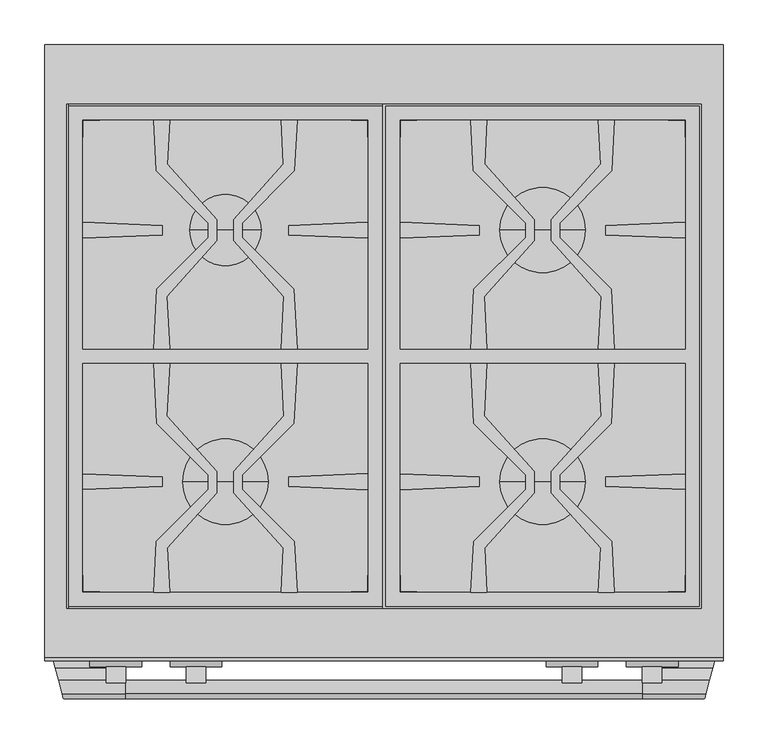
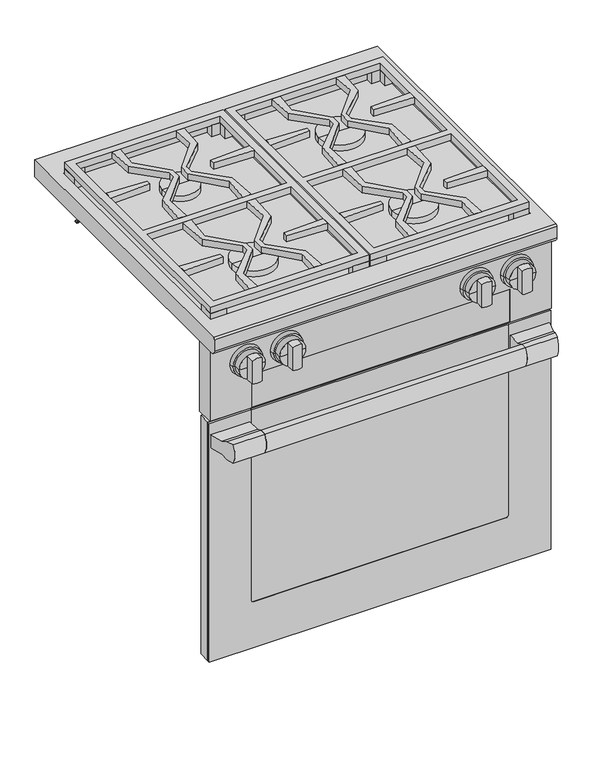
"""IFC4 building model written with IfcOpenShell, lengths in millimetres: proxy geometry, 10902360_USA_HR1924-2G_EDST-CLST : 25192471_USA_10902360_HR1924-2G_EDST-CLST."""

from ifc_helpers import new_model, si_unit, point, frame, frame_2d, origin, place, context, project, spatial, polyline, circle_curve, ellipse_curve, trimmed, segment, composite_curve, outline, extrude, faceted_brep, source, transform, mapped, element, save
from ifc_brep_helpers import plane_surface, cylinder_surface, revolved_surface, advanced_brep


def specialty_equipment_f78d7c6f(model_context):
    return source(origin(), model_context, "Body", "SolidModel", [
        extrude(outline(composite_curve([segment(polyline([(-729.0, 667.0), (-714.0, 667.0), (-714.0, 624.0), (-729.0, 624.0)]), True, "CONTINUOUS"), segment(trimmed(circle_curve(frame_2d((-693.4791667, 645.5)), 41.5208333), [point((-729.0, 624.0))], [point((-729.0, 667.0))], False, "CARTESIAN"), True, "CONTINUOUS")], self_intersect=False)), frame((-290.0, 0.0, 0.0), z_axis=(1.0, 0.0, 0.0), x_axis=(0.0, 1.0, 0.0)), (0.0, 0.0, 1.0), 580.0),
        extrude(outline(polyline([(-380.0, -638.0), (380.0, -638.0), (380.0, -664.7), (-380.0, -664.7), (-380.0, -638.0)])), frame((0.0, 0.0, 127.0), z_axis=(0.0, 0.0, 1.0), x_axis=(1.0, 0.0, 0.0)), (0.0, 0.0, 1.0), 561.0),
        extrude(outline(polyline([(-379.0, -664.7), (379.0, -664.7), (379.0, -668.7), (-379.0, -668.7), (-379.0, -664.7)])), frame((0.0, 0.0, 128.0), z_axis=(0.0, 0.0, 1.0), x_axis=(1.0, 0.0, 0.0)), (0.0, 0.0, 1.0), 559.0),
        advanced_brep(
        [(287.0, -664.7, 688.0), (380.0, -664.7, 688.0), (380.0, -664.7, 127.0), (-380.0, -664.7, 127.0), (-380.0, -664.7, 688.0), (-287.0, -664.7, 688.0), (-287.0, -664.7, 687.0), (-379.0, -664.7, 687.0), (-379.0, -664.7, 128.0), (379.0, -664.7, 128.0), (379.0, -664.7, 687.0), (287.0, -664.7, 687.0), (-287.0, -670.0, 688.0), (-380.0, -670.0, 688.0), (-380.0, -670.0, 127.0), (380.0, -670.0, 127.0), (380.0, -670.0, 688.0), (287.0, -670.0, 688.0), (287.0, -670.0, 241.0), (281.0, -670.0, 235.0), (-281.0, -670.0, 235.0), (-287.0, -670.0, 241.0), (-287.0, -668.7, 241.0), (-287.0, -668.7, 687.0), (281.0, -668.7, 235.0), (-281.0, -668.7, 235.0), (287.0, -668.7, 687.0), (287.0, -668.7, 241.0), (379.0, -668.7, 687.0), (379.0, -668.7, 128.0), (-379.0, -668.7, 128.0), (-379.0, -668.7, 687.0)],
        [
            (0, 1),
            (1, 2),
            (2, 3),
            (3, 4),
            (4, 5),
            (5, 6),
            (6, 7),
            (7, 8),
            (8, 9),
            (9, 10),
            (10, 11),
            (11, 0),
            (12, 13),
            (13, 14),
            (14, 15),
            (15, 16),
            (16, 17),
            (17, 18),
            (18, 19, circle_curve(frame((281.0, -670.0, 241.0), z_axis=(0.0, 1.0, 0.0), x_axis=(-1.0, 0.0, 0.0)), 6.0)),
            (19, 20),
            (20, 21, circle_curve(frame((-281.0, -670.0, 241.0), z_axis=(0.0, 1.0, 0.0), x_axis=(-1.0, 0.0, 0.0)), 6.0)),
            (21, 12),
            (21, 22),
            (22, 23),
            (23, 6),
            (5, 12),
            (19, 24),
            (24, 25),
            (25, 20),
            (17, 0),
            (11, 26),
            (26, 27),
            (27, 18),
            (16, 1),
            (15, 2),
            (14, 3),
            (13, 4),
            (25, 22, circle_curve(frame((-281.0, -668.7, 241.0), z_axis=(0.0, 1.0, 0.0), x_axis=(-1.0, 0.0, 0.0)), 6.0)),
            (27, 24, circle_curve(frame((281.0, -668.7, 241.0), z_axis=(0.0, 1.0, 0.0), x_axis=(-1.0, 0.0, 0.0)), 6.0)),
            (28, 29),
            (29, 30),
            (30, 31),
            (31, 23),
            (26, 28),
            (28, 10),
            (9, 29),
            (8, 30),
            (7, 31),
        ],
        [
            plane_surface(frame((-287.0, -664.7, 241.0), z_axis=(0.0, 1.0, 0.0), x_axis=(0.0, 0.0, -1.0))),
            plane_surface(frame((-287.0, -670.0, 241.0), z_axis=(0.0, -1.0, 0.0), x_axis=(0.0, 0.0, 1.0))),
            plane_surface(frame((-287.0, -664.7, 688.0), z_axis=(1.0, 0.0, 0.0), x_axis=(0.0, -1.0, 0.0))),
            plane_surface(frame((-281.0, -664.7, 235.0), z_axis=(0.0, 0.0, 1.0), x_axis=(0.0, -1.0, 0.0))),
            plane_surface(frame((287.0, -664.7, 241.0), z_axis=(-1.0, 0.0, 0.0), x_axis=(0.0, -1.0, 0.0))),
            plane_surface(frame((287.0, -664.7, 688.0), z_axis=(0.0, 0.0, 1.0), x_axis=(0.0, -1.0, 0.0))),
            plane_surface(frame((380.0, -664.7, 688.0), z_axis=(1.0, 0.0, 0.0), x_axis=(0.0, -1.0, 0.0))),
            plane_surface(frame((380.0, -664.7, 127.0), z_axis=(0.0, 0.0, -1.0), x_axis=(0.0, -1.0, 0.0))),
            plane_surface(frame((-380.0, -664.7, 127.0), z_axis=(-1.0, 0.0, 0.0), x_axis=(0.0, -1.0, 0.0))),
            plane_surface(frame((-380.0, -664.7, 688.0), z_axis=(0.0, 0.0, 1.0), x_axis=(0.0, -1.0, 0.0))),
            revolved_surface(polyline([(-287.0, -670.0, 241.0), (-287.0, -668.7, 241.0)]), (-281.0, -670.0, 241.0), (0.0, -1.0, 0.0)),
            revolved_surface(polyline([(275.0, -670.0, 241.0), (275.0, -668.7, 241.0)]), (281.0, -670.0, 241.0), (0.0, -1.0, 0.0)),
            plane_surface(frame((379.0, -668.7, 687.0), z_axis=(0.0, 1.0, 0.0), x_axis=(0.0, 0.0, 1.0))),
            plane_surface(frame((379.0, -664.7, 687.0), z_axis=(-1.0, 0.0, 0.0), x_axis=(0.0, -1.0, 0.0))),
            plane_surface(frame((379.0, -664.7, 128.0), z_axis=(0.0, 0.0, 1.0), x_axis=(0.0, -1.0, 0.0))),
            plane_surface(frame((-379.0, -664.7, 128.0), z_axis=(1.0, 0.0, 0.0), x_axis=(0.0, -1.0, 0.0))),
            plane_surface(frame((-379.0, -664.7, 687.0), z_axis=(0.0, 0.0, -1.0), x_axis=(0.0, -1.0, 0.0))),
        ],
        [
            (0, [[1, 2, 3, 4, 5, 6, 7, 8, 9, 10, 11, 12]]),
            (1, [[13, 14, 15, 16, 17, 18, 19, 20, 21, 22]]),
            (2, [[-22, 23, 24, 25, -6, 26]]),
            (3, [[-20, 27, 28, 29]]),
            (4, [[-18, 30, -12, 31, 32, 33]]),
            (5, [[-1, -30, -17, 34]]),
            (6, [[-2, -34, -16, 35]]),
            (7, [[-3, -35, -15, 36]]),
            (8, [[-4, -36, -14, 37]]),
            (9, [[-5, -37, -13, -26]]),
            (10, [[-21, -29, 38, -23]]),
            (11, [[-19, -33, 39, -27]]),
            (12, [[40, 41, 42, 43, -24, -38, -28, -39, -32, 44]]),
            (13, [[-40, 45, -10, 46]]),
            (14, [[-41, -46, -9, 47]]),
            (15, [[-42, -47, -8, 48]]),
            (16, [[-45, -44, -31, -11]]),
            (16, [[-48, -7, -25, -43]]),
        ],
    ),
        extrude(outline(polyline([(-351.0, -617.0), (351.0, -617.0), (351.0, -638.0), (-351.0, -638.0), (-351.0, -617.0)])), frame((0.0, 0.0, 133.0), z_axis=(0.0, 0.0, 1.0), x_axis=(1.0, 0.0, 0.0)), (0.0, 0.0, 1.0), 550.0),
        advanced_brep(
        [(-290.0, -700.0, 630.0), (-290.0, -670.0, 630.0), (-290.0, -670.0, 661.0), (-290.0, -700.0, 661.0), (-290.0, -714.0, 667.0), (-290.0, -729.0, 667.0), (-290.0, -729.0, 624.0), (-290.0, -714.0, 624.0), (-368.9615242, -700.0, 630.0), (-377.0, -670.0, 630.0), (-377.0, -670.0, 661.0), (-368.9615242, -700.0, 661.0), (-365.2102355, -714.0, 667.0), (-361.1909976, -729.0, 667.0), (-361.1909976, -729.0, 624.0), (-365.2102355, -714.0, 624.0)],
        [
            (0, 1),
            (1, 2),
            (2, 3),
            (3, 4),
            (4, 5),
            (5, 6, circle_curve(frame((-290.0, -693.4791667, 645.5), z_axis=(1.0, 0.0, 0.0), x_axis=(0.0, 0.0, 1.0)), 41.5208333)),
            (6, 7),
            (7, 0),
            (0, 8),
            (8, 9),
            (9, 1),
            (9, 10),
            (10, 2),
            (10, 11),
            (11, 3),
            (4, 12),
            (12, 13),
            (13, 5),
            (13, 14, ellipse_curve(frame((-370.7087763, -693.4791667, 645.5), z_axis=(0.9659258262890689, 0.258819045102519, 0.0), x_axis=(0.2588190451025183, -0.9659258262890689, 0.0)), 42.9855297, 41.5208333)),
            (14, 6),
            (14, 15),
            (15, 7),
            (8, 15),
            (12, 11),
        ],
        [
            plane_surface(frame((-290.0, -670.0, 630.0), z_axis=(1.0, 0.0, 0.0), x_axis=(0.0, 1.0, 0.0))),
            plane_surface(frame((-290.0, -700.0, 630.0), z_axis=(0.0, 0.0, -1.0), x_axis=(-1.0, 0.0, 0.0))),
            plane_surface(frame((-290.0, -670.0, 630.0), z_axis=(0.0, 1.0, 0.0), x_axis=(-1.0, 0.0, 0.0))),
            plane_surface(frame((-290.0, -670.0, 661.0), z_axis=(0.0, 0.0, 1.0), x_axis=(-1.0, 0.0, 0.0))),
            plane_surface(frame((-290.0, -714.0, 667.0), z_axis=(0.0, 0.0, 1.0), x_axis=(-1.0, 0.0, 0.0))),
            cylinder_surface(frame((-377.0, -693.4791667, 645.5), z_axis=(1.0, 0.0, 0.0), x_axis=(0.0, 0.0, 1.0)), 41.5208333),
            plane_surface(frame((-290.0, -729.0, 624.0), z_axis=(0.0, 0.0, -1.0), x_axis=(-1.0, 0.0, 0.0))),
            plane_surface(frame((-354.5578883, -753.7551012, 668.5), z_axis=(-0.9659258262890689, -0.258819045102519, 0.0), x_axis=(0.0, 0.0, -1.0))),
            plane_surface(frame((-290.0, -700.0, 661.0), z_axis=(0.0, 0.39391929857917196, 0.919145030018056), x_axis=(-1.0, 0.0, 0.0))),
            plane_surface(frame((-290.0, -714.0, 624.0), z_axis=(0.0, 0.39391929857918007, -0.9191450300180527), x_axis=(-1.0, 0.0, 0.0))),
        ],
        [
            (0, [[1, 2, 3, 4, 5, 6, 7, 8]]),
            (1, [[-1, 9, 10, 11]]),
            (2, [[-2, -11, 12, 13]]),
            (3, [[-3, -13, 14, 15]]),
            (4, [[-5, 16, 17, 18]]),
            (5, [[-6, -18, 19, 20]]),
            (6, [[-7, -20, 21, 22]]),
            (7, [[-10, 23, -21, -19, -17, 24, -14, -12]]),
            (8, [[-4, -15, -24, -16]]),
            (9, [[-8, -22, -23, -9]]),
        ],
    ),
        advanced_brep(
        [(290.0, -700.0, 661.0), (290.0, -670.0, 661.0), (290.0, -670.0, 630.0), (290.0, -700.0, 630.0), (290.0, -714.0, 624.0), (290.0, -729.0, 624.0), (290.0, -729.0, 667.0), (290.0, -714.0, 667.0), (361.1909976, -729.0, 667.0), (365.2102355, -714.0, 667.0), (361.1909976, -729.0, 624.0), (365.2102355, -714.0, 624.0), (377.0, -670.0, 630.0), (368.9615242, -700.0, 630.0), (377.0, -670.0, 661.0), (368.9615242, -700.0, 661.0)],
        [
            (0, 1),
            (1, 2),
            (2, 3),
            (3, 4),
            (4, 5),
            (5, 6, circle_curve(frame((290.0, -693.4791667, 645.5), z_axis=(-1.0, 0.0, 0.0), x_axis=(0.0, 0.0, 1.0)), 41.5208333)),
            (6, 7),
            (7, 0),
            (6, 8),
            (8, 9),
            (9, 7),
            (5, 10),
            (10, 8, ellipse_curve(frame((370.7087763, -693.4791667, 645.5), z_axis=(-0.9659258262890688, 0.258819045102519, 0.0), x_axis=(0.2588190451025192, 0.9659258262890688, 0.0)), 42.9855297, 41.5208333)),
            (4, 11),
            (11, 10),
            (2, 12),
            (12, 13),
            (13, 3),
            (1, 14),
            (14, 12),
            (0, 15),
            (15, 14),
            (11, 13),
            (15, 9),
        ],
        [
            plane_surface(frame((290.0, -714.0, 667.0), z_axis=(-1.0000000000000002, 0.0, 0.0), x_axis=(0.0, 0.9191450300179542, -0.3939192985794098))),
            plane_surface(frame((377.0, -714.0, 667.0), z_axis=(0.0, 0.0, 1.0), x_axis=(-1.0, 0.0, 0.0))),
            cylinder_surface(frame((290.0, -693.4791667, 645.5), z_axis=(1.0, 0.0, 0.0), x_axis=(0.0, 0.0, 1.0)), 41.5208333),
            plane_surface(frame((377.0, -729.0, 624.0), z_axis=(0.0, 0.0, -1.0), x_axis=(-1.0, 0.0, 0.0))),
            plane_surface(frame((377.0, -700.0, 630.0), z_axis=(0.0, 0.0, -1.0), x_axis=(-1.0, 0.0, 0.0))),
            plane_surface(frame((377.0, -670.0, 630.0), z_axis=(0.0, 1.0, 0.0), x_axis=(-1.0, 0.0, 0.0))),
            plane_surface(frame((377.0, -670.0, 661.0), z_axis=(0.0, 0.0, 1.0), x_axis=(-1.0, 0.0, 0.0))),
            plane_surface(frame((377.0, -670.0, 668.5), z_axis=(0.9659258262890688, -0.258819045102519, 0.0), x_axis=(0.0, 0.0, -1.0))),
            plane_surface(frame((377.0, -700.0, 661.0), z_axis=(0.0, 0.3939192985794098, 0.9191450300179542), x_axis=(-1.0, 0.0, 0.0))),
            plane_surface(frame((377.0, -714.0, 624.0), z_axis=(0.0, 0.3939192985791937, -0.9191450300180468), x_axis=(-1.0, 0.0, 0.0))),
        ],
        [
            (0, [[1, 2, 3, 4, 5, 6, 7, 8]]),
            (1, [[-7, 9, 10, 11]]),
            (2, [[-6, 12, 13, -9]]),
            (3, [[-5, 14, 15, -12]]),
            (4, [[-3, 16, 17, 18]]),
            (5, [[-2, 19, 20, -16]]),
            (6, [[-1, 21, 22, -19]]),
            (7, [[-10, -13, -15, 23, -17, -20, -22, 24]]),
            (8, [[-8, -11, -24, -21]]),
            (9, [[-4, -18, -23, -14]]),
        ],
    ),
        extrude(outline(polyline([(97.4177304, -358.0273828), (115.4174107, -358.0273828), (112.3474419, -416.9894265), (168.4590566, -479.568392), (168.4590566, -503.4471434), (112.8930533, -565.5024535), (115.5051055, -615.0212482), (97.5054252, -615.0212482), (100.4706458, -558.0710081), (158.8494553, -499.6921986), (158.8494553, -483.3657133), (100.9764383, -425.4926963), (97.4177304, -358.0273828)])), frame((0.0, 0.0, 914.0), z_axis=(0.0, 0.0, 1.0), x_axis=(1.0, 0.0, 0.0)), (0.0, 0.0, 1.0), 15.0),
        extrude(outline(polyline([(243.5666917, -416.9448139), (240.4588735, -358.0273828), (258.4534566, -358.0273828), (254.9434746, -425.4403498), (197.0712231, -483.3126013), (197.0712231, -499.6295194), (255.5438392, -558.1021355), (258.5462487, -615.0212482), (240.541471, -615.0212482), (243.1220648, -565.4581775), (187.4590702, -503.3795395), (187.4590702, -479.6049953), (243.5666917, -416.9448139)])), frame((0.0, 0.0, 914.0), z_axis=(0.0, 0.0, 1.0), x_axis=(1.0, 0.0, 0.0)), (0.0, 0.0, 1.0), 15.0),
        extrude(outline(polyline([(-258.5822696, -358.0273828), (-240.5825893, -358.0273828), (-243.6525581, -416.9894265), (-187.5409434, -479.568392), (-187.5409434, -503.4471434), (-243.1069467, -565.5024535), (-240.4948945, -615.0212482), (-258.4945748, -615.0212482), (-255.5293542, -558.0710081), (-197.1505447, -499.6921986), (-197.1505447, -483.3657133), (-255.0235617, -425.4926963), (-258.5822696, -358.0273828)])), frame((0.0, 0.0, 914.0), z_axis=(0.0, 0.0, 1.0), x_axis=(1.0, 0.0, 0.0)), (0.0, 0.0, 1.0), 15.0),
        extrude(outline(polyline([(-115.5411265, -358.0273828), (-97.5465434, -358.0273828), (-101.0565254, -425.4403498), (-158.9287769, -483.3126013), (-158.9287769, -499.6295194), (-100.4561608, -558.1021355), (-97.4537513, -615.0212482), (-115.458529, -615.0212482), (-112.8779352, -565.4581775), (-168.5409298, -503.3795395), (-168.5409298, -479.6049953), (-112.4333083, -416.9448139), (-115.5411265, -358.0273828)])), frame((0.0, 0.0, 914.0), z_axis=(0.0, 0.0, 1.0), x_axis=(1.0, 0.0, 0.0)), (0.0, 0.0, 1.0), 15.0),
        extrude(outline(polyline([(-258.5385862, -85.0), (-240.5385862, -85.0), (-243.1338026, -134.5196799), (-187.5, -196.6082182), (-187.5, -220.3917818), (-243.6289218, -283.0328838), (-240.5385862, -342.0), (-258.5385862, -342.0), (-255.0028157, -274.5334805), (-197.1108918, -216.6415566), (-197.1108918, -200.3584434), (-255.5558783, -141.9134569), (-258.5385862, -85.0)])), frame((0.0, 0.0, 914.0), z_axis=(0.0, 0.0, 1.0), x_axis=(1.0, 0.0, 0.0)), (0.0, 0.0, 1.0), 15.0),
        extrude(outline(polyline([(-115.5, -85.0), (-97.5, -85.0), (-100.4827079, -141.9134569), (-158.8891082, -200.3198573), (-158.8891082, -216.6801428), (-101.0357705, -274.5334805), (-97.5, -342.0), (-115.5, -342.0), (-112.4096644, -283.0328839), (-168.5, -220.4348449), (-168.5, -196.5651551), (-112.9047835, -134.5196799), (-115.5, -85.0)])), frame((0.0, 0.0, 914.0), z_axis=(0.0, 0.0, 1.0), x_axis=(1.0, 0.0, 0.0)), (0.0, 0.0, 1.0), 15.0),
        extrude(outline(polyline([(115.4614138, -85.0), (112.8661974, -134.5196799), (168.5, -196.6082182), (168.5, -220.3917818), (112.3710782, -283.0328838), (115.4614138, -342.0), (97.4614138, -342.0), (100.9971843, -274.5334805), (158.8891082, -216.6415566), (158.8891082, -200.3584434), (100.4441217, -141.9134569), (97.4614138, -85.0), (115.4614138, -85.0)])), frame((0.0, 0.0, 914.0), z_axis=(0.0, 0.0, 1.0), x_axis=(1.0, 0.0, 0.0)), (0.0, 0.0, 1.0), 15.0),
        extrude(outline(polyline([(243.0952165, -134.5196799), (240.5, -85.0), (258.5, -85.0), (255.5172921, -141.9134569), (197.1108918, -200.3198573), (197.1108918, -216.6801428), (254.9642295, -274.5334805), (258.5, -342.0), (240.5, -342.0), (243.5903356, -283.0328839), (187.5, -220.4348449), (187.5, -196.5651551), (243.0952165, -134.5196799)])), frame((0.0, 0.0, 914.0), z_axis=(0.0, 0.0, 1.0), x_axis=(1.0, 0.0, 0.0)), (0.0, 0.0, 1.0), 15.0),
        extrude(outline(polyline([(354.0, -69.0), (354.0, -631.0), (2.0, -631.0), (2.0, -69.0), (354.0, -69.0)])), frame((0.0, 0.0, 870.0), z_axis=(0.0, 0.0, 1.0), x_axis=(1.0, 0.0, 0.0)), (0.0, 0.0, 1.0), 17.0),
        extrude(outline(polyline([(-2.0, -67.0), (-2.0, -633.0), (-354.0, -633.0), (-354.0, -67.0), (-2.0, -67.0)])), frame((0.0, 0.0, 870.0), z_axis=(0.0, 0.0, 1.0), x_axis=(1.0, 0.0, 0.0)), (0.0, 0.0, 1.0), 17.0),
        extrude(outline(polyline([(-249.0, -213.7921261), (-338.0, -217.4578849), (-338.0, -199.5421151), (-249.0, -203.2078739), (-249.0, -213.7921261)])), frame((0.0, 0.0, 914.0), z_axis=(0.0, 0.0, 1.0), x_axis=(1.0, 0.0, 0.0)), (0.0, 0.0, 1.0), 15.0),
        extrude(outline(polyline([(-18.0, -199.5029948), (-18.0, -217.4970052), (-107.0, -213.7790477), (-107.0, -203.2209523), (-18.0, -199.5029948)])), frame((0.0, 0.0, 914.0), z_axis=(0.0, 0.0, 1.0), x_axis=(1.0, 0.0, 0.0)), (0.0, 0.0, 1.0), 15.0),
        extrude(outline(polyline([(-249.0, -496.2921261), (-338.0, -499.9578849), (-338.0, -482.0421151), (-249.0, -485.7078739), (-249.0, -496.2921261)])), frame((0.0, 0.0, 914.0), z_axis=(0.0, 0.0, 1.0), x_axis=(1.0, 0.0, 0.0)), (0.0, 0.0, 1.0), 15.0),
        extrude(outline(polyline([(-18.0, -482.0029948), (-18.0, -499.9970052), (-107.0, -496.2790477), (-107.0, -485.7209523), (-18.0, -482.0029948)])), frame((0.0, 0.0, 914.0), z_axis=(0.0, 0.0, 1.0), x_axis=(1.0, 0.0, 0.0)), (0.0, 0.0, 1.0), 15.0),
        extrude(outline(polyline([(-2.0, -631.0), (-37.0, -631.0), (-37.0, -615.0), (-18.0, -615.0), (-18.0, -596.0), (-2.0, -596.0), (-2.0, -631.0)])), frame((0.0, 0.0, 887.0), z_axis=(0.0, 0.0, 1.0), x_axis=(1.0, 0.0, 0.0)), (0.0, 0.0, 1.0), 27.0),
        extrude(outline(polyline([(-354.0, -631.0), (-354.0, -596.0), (-338.0, -596.0), (-338.0, -615.0), (-319.0, -615.0), (-319.0, -631.0), (-354.0, -631.0)])), frame((0.0, 0.0, 887.0), z_axis=(0.0, 0.0, 1.0), x_axis=(1.0, 0.0, 0.0)), (0.0, 0.0, 1.0), 27.0),
        extrude(outline(polyline([(-2.0, -69.0), (-2.0, -104.0), (-18.0, -104.0), (-18.0, -85.0), (-37.0, -85.0), (-37.0, -69.0), (-2.0, -69.0)])), frame((0.0, 0.0, 887.0), z_axis=(0.0, 0.0, 1.0), x_axis=(1.0, 0.0, 0.0)), (0.0, 0.0, 1.0), 27.0),
        extrude(outline(polyline([(-354.0, -69.0), (-319.0, -69.0), (-319.0, -85.0), (-338.0, -85.0), (-338.0, -104.0), (-354.0, -104.0), (-354.0, -69.0)])), frame((0.0, 0.0, 887.0), z_axis=(0.0, 0.0, 1.0), x_axis=(1.0, 0.0, 0.0)), (0.0, 0.0, 1.0), 27.0),
        extrude(outline(polyline([(18.0337834, -499.9810574), (18.0337834, -482.0189426), (107.0337834, -485.7078739), (107.0337834, -496.2921261), (18.0337834, -499.9810574)])), frame((0.0, 0.0, 914.0), z_axis=(0.0, 0.0, 1.0), x_axis=(1.0, 0.0, 0.0)), (0.0, 0.0, 1.0), 15.0),
        extrude(outline(polyline([(338.0337834, -482.0262039), (338.0337834, -499.9737961), (249.0337834, -496.2790477), (249.0337834, -485.7209523), (338.0337834, -482.0262039)])), frame((0.0, 0.0, 914.0), z_axis=(0.0, 0.0, 1.0), x_axis=(1.0, 0.0, 0.0)), (0.0, 0.0, 1.0), 15.0),
        extrude(outline(polyline([(18.0337834, -217.4810574), (18.0337834, -199.5189426), (107.0337834, -203.2078739), (107.0337834, -213.7921261), (18.0337834, -217.4810574)])), frame((0.0, 0.0, 914.0), z_axis=(0.0, 0.0, 1.0), x_axis=(1.0, 0.0, 0.0)), (0.0, 0.0, 1.0), 15.0),
        extrude(outline(polyline([(338.0337834, -199.5262039), (338.0337834, -217.4737961), (249.0337834, -213.7790477), (249.0337834, -203.2209523), (338.0337834, -199.5262039)])), frame((0.0, 0.0, 914.0), z_axis=(0.0, 0.0, 1.0), x_axis=(1.0, 0.0, 0.0)), (0.0, 0.0, 1.0), 15.0),
        extrude(outline(polyline([(-2.0, -69.0), (-2.0, -631.0), (-354.0, -631.0), (-354.0, -69.0), (-2.0, -69.0)]), holes=[polyline([(-18.0, -85.0), (-338.0, -85.0), (-338.0, -342.0), (-18.0, -342.0), (-18.0, -85.0)]), polyline([(-338.0, -358.0), (-338.0, -615.0), (-18.0, -615.0), (-18.0, -358.0), (-338.0, -358.0)])]), frame((0.0, 0.0, 914.0), z_axis=(0.0, 0.0, 1.0), x_axis=(1.0, 0.0, 0.0)), (0.0, 0.0, 1.0), 15.0),
        extrude(outline(polyline([(354.0, -69.0), (354.0, -631.0), (2.0, -631.0), (2.0, -69.0), (354.0, -69.0)]), holes=[polyline([(338.0337834, -85.0), (18.0337834, -85.0), (18.0337834, -342.0), (338.0337834, -342.0), (338.0337834, -85.0)]), polyline([(18.0337834, -358.0), (18.0337834, -615.0), (338.0337834, -615.0), (338.0337834, -358.0), (18.0337834, -358.0)])]), frame((0.0, 0.0, 914.0), z_axis=(0.0, 0.0, 1.0), x_axis=(1.0, 0.0, 0.0)), (0.0, 0.0, 1.0), 15.0),
        extrude(outline(polyline([(354.0, -631.0), (319.0, -631.0), (319.0, -615.0), (338.0337834, -615.0), (338.0337834, -596.0), (354.0, -596.0), (354.0, -631.0)])), frame((0.0, 0.0, 887.0), z_axis=(0.0, 0.0, 1.0), x_axis=(1.0, 0.0, 0.0)), (0.0, 0.0, 1.0), 27.0),
        extrude(outline(polyline([(2.0, -631.0), (2.0, -596.0), (18.0337834, -596.0), (18.0337834, -615.0), (37.0, -615.0), (37.0, -631.0), (2.0, -631.0)])), frame((0.0, 0.0, 887.0), z_axis=(0.0, 0.0, 1.0), x_axis=(1.0, 0.0, 0.0)), (0.0, 0.0, 1.0), 27.0),
        extrude(outline(polyline([(354.0, -69.0), (354.0, -104.0), (338.0337834, -104.0), (338.0337834, -85.0), (319.0, -85.0), (319.0, -69.0), (354.0, -69.0)])), frame((0.0, 0.0, 887.0), z_axis=(0.0, 0.0, 1.0), x_axis=(1.0, 0.0, 0.0)), (0.0, 0.0, 1.0), 27.0),
        extrude(outline(polyline([(2.0, -69.0), (37.0, -69.0), (37.0, -85.0), (18.0337834, -85.0), (18.0337834, -104.0), (2.0, -104.0), (2.0, -69.0)])), frame((0.0, 0.0, 887.0), z_axis=(0.0, 0.0, 1.0), x_axis=(1.0, 0.0, 0.0)), (0.0, 0.0, 1.0), 27.0),
        advanced_brep(
        [(130.0, -208.5, 887.0), (226.0, -208.5, 887.0), (226.0, -208.5, 901.0), (130.0, -208.5, 901.0), (178.0, -208.5, 887.0), (178.0, -208.5, 901.0)],
        [
            (0, 1, circle_curve(frame((178.0, -208.5, 887.0), z_axis=(0.0, 0.0, 1.0), x_axis=(1.0, 0.0, 0.0)), 48.0)),
            (1, 2),
            (2, 3, circle_curve(frame((178.0, -208.5, 901.0), z_axis=(0.0, 0.0, -1.0), x_axis=(1.0, 0.0, 0.0)), 48.0)),
            (3, 0),
            (1, 0, circle_curve(frame((178.0, -208.5, 887.0), z_axis=(0.0, 0.0, 1.0), x_axis=(1.0, 0.0, 0.0)), 48.0)),
            (3, 2, circle_curve(frame((178.0, -208.5, 901.0), z_axis=(0.0, 0.0, -1.0), x_axis=(1.0, 0.0, 0.0)), 48.0)),
            (4, 1),
            (0, 4),
            (2, 5),
            (5, 3),
        ],
        [
            cylinder_surface(frame((178.0, -208.5, 2338.4), z_axis=(0.0, 0.0, -1.0), x_axis=(1.0, 0.0, 0.0)), 48.0),
            plane_surface(frame((178.0, -208.5, 887.0), z_axis=(0.0, 0.0, -1.0), x_axis=(1.0, 0.0, 0.0))),
            plane_surface(frame((178.0, -208.5, 901.0), z_axis=(0.0, 0.0, 1.0), x_axis=(1.0, 0.0, 0.0))),
        ],
        [
            (0, [[1, 2, 3, 4]]),
            (0, [[5, -4, 6, -2]]),
            (1, [[7, -1, 8]]),
            (1, [[-8, -5, -7]]),
            (2, [[-3, 9, 10]]),
            (2, [[-6, -10, -9]]),
        ],
    ),
        advanced_brep(
        [(-178.0, -208.5, 887.0), (-138.0, -208.5, 887.0), (-218.0, -208.5, 887.0), (-218.0, -208.5, 901.0), (-138.0, -208.5, 901.0), (-178.0, -208.5, 901.0)],
        [
            (0, 1),
            (1, 2, circle_curve(frame((-178.0, -208.5, 887.0), z_axis=(0.0, 0.0, -1.0), x_axis=(1.0, 0.0, 0.0)), 40.0)),
            (2, 0),
            (2, 1, circle_curve(frame((-178.0, -208.5, 887.0), z_axis=(0.0, 0.0, -1.0), x_axis=(1.0, 0.0, 0.0)), 40.0)),
            (3, 4, circle_curve(frame((-178.0, -208.5, 901.0), z_axis=(0.0, 0.0, 1.0), x_axis=(1.0, 0.0, 0.0)), 40.0)),
            (4, 5),
            (5, 3),
            (4, 3, circle_curve(frame((-178.0, -208.5, 901.0), z_axis=(0.0, 0.0, 1.0), x_axis=(1.0, 0.0, 0.0)), 40.0)),
            (1, 4),
            (3, 2),
        ],
        [
            plane_surface(frame((-178.0, -208.5, 887.0), z_axis=(0.0, 0.0, -1.0), x_axis=(1.0, 0.0, 0.0))),
            plane_surface(frame((-178.0, -208.5, 901.0), z_axis=(0.0, 0.0, 1.0), x_axis=(1.0, 0.0, 0.0))),
            cylinder_surface(frame((-178.0, -208.5, 2424.4), z_axis=(0.0, 0.0, -1.0), x_axis=(1.0, 0.0, 0.0)), 40.0),
        ],
        [
            (0, [[1, 2, 3]]),
            (0, [[-3, 4, -1]]),
            (1, [[5, 6, 7]]),
            (1, [[8, -7, -6]]),
            (2, [[-2, 9, -5, 10]]),
            (2, [[-4, -10, -8, -9]]),
        ],
    ),
        advanced_brep(
        [(-226.0, -491.0, 887.0), (-130.0, -491.0, 887.0), (-130.0, -491.0, 901.0), (-226.0, -491.0, 901.0), (-178.0, -491.0, 887.0), (-178.0, -491.0, 901.0)],
        [
            (0, 1, circle_curve(frame((-178.0, -491.0, 887.0), z_axis=(0.0, 0.0, 1.0), x_axis=(1.0, 0.0, 0.0)), 48.0)),
            (1, 2),
            (2, 3, circle_curve(frame((-178.0, -491.0, 901.0), z_axis=(0.0, 0.0, -1.0), x_axis=(1.0, 0.0, 0.0)), 48.0)),
            (3, 0),
            (1, 0, circle_curve(frame((-178.0, -491.0, 887.0), z_axis=(0.0, 0.0, 1.0), x_axis=(1.0, 0.0, 0.0)), 48.0)),
            (3, 2, circle_curve(frame((-178.0, -491.0, 901.0), z_axis=(0.0, 0.0, -1.0), x_axis=(1.0, 0.0, 0.0)), 48.0)),
            (4, 1),
            (0, 4),
            (2, 5),
            (5, 3),
        ],
        [
            cylinder_surface(frame((-178.0, -491.0, 2424.4), z_axis=(0.0, 0.0, -1.0), x_axis=(1.0, 0.0, 0.0)), 48.0),
            plane_surface(frame((-178.0, -491.0, 887.0), z_axis=(0.0, 0.0, -1.0), x_axis=(1.0, 0.0, 0.0))),
            plane_surface(frame((-178.0, -491.0, 901.0), z_axis=(0.0, 0.0, 1.0), x_axis=(1.0, 0.0, 0.0))),
        ],
        [
            (0, [[1, 2, 3, 4]]),
            (0, [[5, -4, 6, -2]]),
            (1, [[7, -1, 8]]),
            (1, [[-8, -5, -7]]),
            (2, [[-3, 9, 10]]),
            (2, [[-6, -10, -9]]),
        ],
    ),
        advanced_brep(
        [(130.0, -491.0, 887.0), (226.0, -491.0, 887.0), (226.0, -491.0, 901.0), (130.0, -491.0, 901.0), (178.0, -491.0, 887.0), (178.0, -491.0, 901.0)],
        [
            (0, 1, circle_curve(frame((178.0, -491.0, 887.0), z_axis=(0.0, 0.0, 1.0), x_axis=(1.0, 0.0, 0.0)), 48.0)),
            (1, 2),
            (2, 3, circle_curve(frame((178.0, -491.0, 901.0), z_axis=(0.0, 0.0, -1.0), x_axis=(1.0, 0.0, 0.0)), 48.0)),
            (3, 0),
            (1, 0, circle_curve(frame((178.0, -491.0, 887.0), z_axis=(0.0, 0.0, 1.0), x_axis=(1.0, 0.0, 0.0)), 48.0)),
            (3, 2, circle_curve(frame((178.0, -491.0, 901.0), z_axis=(0.0, 0.0, -1.0), x_axis=(1.0, 0.0, 0.0)), 48.0)),
            (4, 1),
            (0, 4),
            (2, 5),
            (5, 3),
        ],
        [
            cylinder_surface(frame((178.0, -491.0, 2424.4), z_axis=(0.0, 0.0, -1.0), x_axis=(1.0, 0.0, 0.0)), 48.0),
            plane_surface(frame((178.0, -491.0, 887.0), z_axis=(0.0, 0.0, -1.0), x_axis=(1.0, 0.0, 0.0))),
            plane_surface(frame((178.0, -491.0, 901.0), z_axis=(0.0, 0.0, 1.0), x_axis=(1.0, 0.0, 0.0))),
        ],
        [
            (0, [[1, 2, 3, 4]]),
            (0, [[5, -4, 6, -2]]),
            (1, [[7, -1, 8]]),
            (1, [[-8, -5, -7]]),
            (2, [[-3, 9, 10]]),
            (2, [[-6, -10, -9]]),
        ],
    ),
        advanced_brep(
        [(381.0, 0.0, 902.0), (381.0, -688.3499547, 902.0), (381.0, -692.0, 898.3499547), (381.0, -692.0, 872.0), (381.0, -682.0, 862.0), (381.0, 0.0, 862.0), (-381.0, 0.0, 902.0), (-381.0, 0.0, 862.0), (-381.0, -682.0, 862.0), (-381.0, -692.0, 872.0), (-381.0, -692.0, 898.3499547), (-381.0, -688.3499547, 902.0), (-356.0, -67.0, 902.0), (356.0, -67.0, 902.0), (356.0, -633.0, 902.0), (-356.0, -633.0, 902.0), (356.0, -67.0, 870.0), (-356.0, -67.0, 870.0), (-356.0, -633.0, 870.0), (356.0, -633.0, 870.0)],
        [
            (0, 1),
            (1, 2, circle_curve(frame((381.0, -688.0, 898.0), z_axis=(1.0, 0.0, 0.0), x_axis=(0.0, 0.0, 1.0)), 4.0152794)),
            (2, 3),
            (3, 4, circle_curve(frame((381.0, -682.0, 872.0), z_axis=(1.0, 0.0, 0.0), x_axis=(0.0, 0.0, 1.0)), 10.0)),
            (4, 5),
            (5, 0),
            (6, 7),
            (7, 8),
            (8, 9, circle_curve(frame((-381.0, -682.0, 872.0), z_axis=(-1.0, 0.0, 0.0), x_axis=(0.0, 0.0, 1.0)), 10.0)),
            (9, 10),
            (10, 11, circle_curve(frame((-381.0, -688.0, 898.0), z_axis=(-1.0, 0.0, 0.0), x_axis=(0.0, 0.0, 1.0)), 4.0152794)),
            (11, 6),
            (0, 6),
            (11, 1),
            (12, 13),
            (13, 14),
            (14, 15),
            (15, 12),
            (10, 2),
            (9, 3),
            (8, 4),
            (7, 5),
            (16, 17),
            (17, 18),
            (18, 19),
            (19, 16),
            (16, 13),
            (12, 17),
            (15, 18),
            (14, 19),
        ],
        [
            plane_surface(frame((381.0, -688.3499547, 902.0), z_axis=(1.0, 0.0, 0.0), x_axis=(0.0, -1.0, 0.0))),
            plane_surface(frame((-381.0, -688.3499547, 902.0), z_axis=(-1.0, 0.0, 0.0), x_axis=(0.0, 1.0, 0.0))),
            plane_surface(frame((381.0, 0.0, 902.0), z_axis=(0.0, 0.0, 1.0), x_axis=(-1.0, 0.0, 0.0))),
            cylinder_surface(frame((-381.0, -688.0, 898.0), z_axis=(1.0, 0.0, 0.0), x_axis=(0.0, 0.0, 1.0)), 4.0152794),
            plane_surface(frame((381.0, -692.0, 898.3499547), z_axis=(0.0, -1.0, 0.0), x_axis=(-1.0, 0.0, 0.0))),
            cylinder_surface(frame((-381.0, -682.0, 872.0), z_axis=(1.0, 0.0, 0.0), x_axis=(0.0, 0.0, 1.0)), 10.0),
            plane_surface(frame((381.0, -682.0, 862.0), z_axis=(0.0, 0.0, -1.0), x_axis=(-1.0, 0.0, 0.0))),
            plane_surface(frame((381.0, 0.0, 862.0), z_axis=(0.0, 1.0, 0.0), x_axis=(-1.0, 0.0, 0.0))),
            plane_surface(frame((-356.0, -67.0, 870.0), z_axis=(0.0, 0.0, 1.0), x_axis=(1.0, 0.0, 0.0))),
            plane_surface(frame((356.0, -67.0, 902.0), z_axis=(0.0, -1.0, 0.0), x_axis=(0.0, 0.0, -1.0))),
            plane_surface(frame((-356.0, -67.0, 902.0), z_axis=(1.0, 0.0, 0.0), x_axis=(0.0, 0.0, -1.0))),
            plane_surface(frame((-356.0, -633.0, 902.0), z_axis=(0.0, 1.0, 0.0), x_axis=(0.0, 0.0, -1.0))),
            plane_surface(frame((356.0, -633.0, 902.0), z_axis=(-1.0, 0.0, 0.0), x_axis=(0.0, 0.0, -1.0))),
        ],
        [
            (0, [[1, 2, 3, 4, 5, 6]]),
            (1, [[7, 8, 9, 10, 11, 12]]),
            (2, [[-1, 13, -12, 14], [15, 16, 17, 18]]),
            (3, [[-2, -14, -11, 19]]),
            (4, [[-3, -19, -10, 20]]),
            (5, [[-4, -20, -9, 21]]),
            (6, [[-5, -21, -8, 22]]),
            (7, [[-6, -22, -7, -13]]),
            (8, [[23, 24, 25, 26]]),
            (9, [[-23, 27, -15, 28]]),
            (10, [[-24, -28, -18, 29]]),
            (11, [[-25, -29, -17, 30]]),
            (12, [[-26, -30, -16, -27]]),
        ],
    ),
        extrude(outline(composite_curve([segment(polyline([(839.8328157, -312.0), (786.1671843, -312.0)]), True, "CONTINUOUS"), segment(trimmed(circle_curve(frame_2d((813.0, -301.0)), 29.0), [point((786.1671843, -312.0))], [point((786.1671843, -290.0))], False, "CARTESIAN"), True, "CONTINUOUS"), segment(polyline([(786.1671843, -290.0), (839.8328157, -290.0)]), True, "CONTINUOUS"), segment(trimmed(circle_curve(frame_2d((813.0, -301.0)), 29.0), [point((839.8328157, -290.0))], [point((839.8328157, -312.0))], False, "CARTESIAN"), True, "CONTINUOUS")], self_intersect=False)), frame((0.0, -717.0, 0.0), z_axis=(0.0, 1.0, 0.0), x_axis=(0.0, 0.0, 1.0)), (0.0, 0.0, 1.0), 18.0),
        extrude(outline(composite_curve([segment(polyline([(839.8328157, -222.0), (786.1671843, -222.0)]), True, "CONTINUOUS"), segment(trimmed(circle_curve(frame_2d((813.0, -211.0)), 29.0), [point((786.1671843, -222.0))], [point((786.1671843, -200.0))], False, "CARTESIAN"), True, "CONTINUOUS"), segment(polyline([(786.1671843, -200.0), (839.8328157, -200.0)]), True, "CONTINUOUS"), segment(trimmed(circle_curve(frame_2d((813.0, -211.0)), 29.0), [point((839.8328157, -200.0))], [point((839.8328157, -222.0))], False, "CARTESIAN"), True, "CONTINUOUS")], self_intersect=False)), frame((0.0, -717.0, 0.0), z_axis=(0.0, 1.0, 0.0), x_axis=(0.0, 0.0, 1.0)), (0.0, 0.0, 1.0), 18.0),
        extrude(outline(composite_curve([segment(trimmed(circle_curve(frame_2d((813.0, 211.0)), 29.0), [point((786.1671843, 200.0))], [point((786.1671843, 222.0))], False, "CARTESIAN"), True, "CONTINUOUS"), segment(polyline([(786.1671843, 222.0), (839.8328157, 222.0)]), True, "CONTINUOUS"), segment(trimmed(circle_curve(frame_2d((813.0, 211.0)), 29.0), [point((839.8328157, 222.0))], [point((839.8328157, 200.0))], False, "CARTESIAN"), True, "CONTINUOUS"), segment(polyline([(839.8328157, 200.0), (786.1671843, 200.0)]), True, "CONTINUOUS")], self_intersect=False)), frame((0.0, -717.0, 0.0), z_axis=(0.0, 1.0, 0.0), x_axis=(0.0, 0.0, 1.0)), (0.0, 0.0, 1.0), 18.0),
        advanced_brep(
        [(-301.0, -683.0, 813.0), (-272.0, -683.0, 813.0), (-330.0, -683.0, 813.0), (-330.0, -699.0, 813.0), (-272.0, -699.0, 813.0), (-301.0, -699.0, 813.0)],
        [
            (0, 1),
            (1, 2, circle_curve(frame((-301.0, -683.0, 813.0), z_axis=(0.0, 1.0, 0.0), x_axis=(1.0, 0.0, 0.0)), 29.0)),
            (2, 0),
            (2, 1, circle_curve(frame((-301.0, -683.0, 813.0), z_axis=(0.0, 1.0, 0.0), x_axis=(1.0, 0.0, 0.0)), 29.0)),
            (3, 4, circle_curve(frame((-301.0, -699.0, 813.0), z_axis=(0.0, -1.0, 0.0), x_axis=(1.0, 0.0, 0.0)), 29.0)),
            (4, 5),
            (5, 3),
            (4, 3, circle_curve(frame((-301.0, -699.0, 813.0), z_axis=(0.0, -1.0, 0.0), x_axis=(1.0, 0.0, 0.0)), 29.0)),
            (1, 4),
            (3, 2),
        ],
        [
            plane_surface(frame((-301.0, -683.0, 813.0), z_axis=(0.0, 1.0, 0.0), x_axis=(1.0, 0.0, 0.0))),
            plane_surface(frame((-301.0, -699.0, 813.0), z_axis=(0.0, -1.0, 0.0), x_axis=(1.0, 0.0, 0.0))),
            cylinder_surface(frame((-301.0, 751.3738435, 813.0), z_axis=(0.0, 1.0, 0.0), x_axis=(1.0, 0.0, 0.0)), 29.0),
        ],
        [
            (0, [[1, 2, 3]]),
            (0, [[-3, 4, -1]]),
            (1, [[5, 6, 7]]),
            (1, [[8, -7, -6]]),
            (2, [[-2, 9, -5, 10]]),
            (2, [[-4, -10, -8, -9]]),
        ],
    ),
        advanced_brep(
        [(-211.0, -683.0, 813.0), (-182.0, -683.0, 813.0), (-240.0, -683.0, 813.0), (-240.0, -699.0, 813.0), (-182.0, -699.0, 813.0), (-211.0, -699.0, 813.0)],
        [
            (0, 1),
            (1, 2, circle_curve(frame((-211.0, -683.0, 813.0), z_axis=(0.0, 1.0, 0.0), x_axis=(1.0, 0.0, 0.0)), 29.0)),
            (2, 0),
            (2, 1, circle_curve(frame((-211.0, -683.0, 813.0), z_axis=(0.0, 1.0, 0.0), x_axis=(1.0, 0.0, 0.0)), 29.0)),
            (3, 4, circle_curve(frame((-211.0, -699.0, 813.0), z_axis=(0.0, -1.0, 0.0), x_axis=(1.0, 0.0, 0.0)), 29.0)),
            (4, 5),
            (5, 3),
            (4, 3, circle_curve(frame((-211.0, -699.0, 813.0), z_axis=(0.0, -1.0, 0.0), x_axis=(1.0, 0.0, 0.0)), 29.0)),
            (1, 4),
            (3, 2),
        ],
        [
            plane_surface(frame((-211.0, -683.0, 813.0), z_axis=(0.0, 1.0, 0.0), x_axis=(1.0, 0.0, 0.0))),
            plane_surface(frame((-211.0, -699.0, 813.0), z_axis=(0.0, -1.0, 0.0), x_axis=(1.0, 0.0, 0.0))),
            cylinder_surface(frame((-211.0, 751.3738435, 813.0), z_axis=(0.0, 1.0, 0.0), x_axis=(1.0, 0.0, 0.0)), 29.0),
        ],
        [
            (0, [[1, 2, 3]]),
            (0, [[-3, 4, -1]]),
            (1, [[5, 6, 7]]),
            (1, [[8, -7, -6]]),
            (2, [[-2, 9, -5, 10]]),
            (2, [[-4, -10, -8, -9]]),
        ],
    ),
        advanced_brep(
        [(211.0, -683.0, 813.0), (240.0, -683.0, 813.0), (182.0, -683.0, 813.0), (182.0, -699.0, 813.0), (240.0, -699.0, 813.0), (211.0, -699.0, 813.0)],
        [
            (0, 1),
            (1, 2, circle_curve(frame((211.0, -683.0, 813.0), z_axis=(0.0, 1.0, 0.0), x_axis=(1.0, 0.0, 0.0)), 29.0)),
            (2, 0),
            (2, 1, circle_curve(frame((211.0, -683.0, 813.0), z_axis=(0.0, 1.0, 0.0), x_axis=(1.0, 0.0, 0.0)), 29.0)),
            (3, 4, circle_curve(frame((211.0, -699.0, 813.0), z_axis=(0.0, -1.0, 0.0), x_axis=(1.0, 0.0, 0.0)), 29.0)),
            (4, 5),
            (5, 3),
            (4, 3, circle_curve(frame((211.0, -699.0, 813.0), z_axis=(0.0, -1.0, 0.0), x_axis=(1.0, 0.0, 0.0)), 29.0)),
            (1, 4),
            (3, 2),
        ],
        [
            plane_surface(frame((211.0, -683.0, 813.0), z_axis=(0.0, 1.0, 0.0), x_axis=(1.0, 0.0, 0.0))),
            plane_surface(frame((211.0, -699.0, 813.0), z_axis=(0.0, -1.0, 0.0), x_axis=(1.0, 0.0, 0.0))),
            cylinder_surface(frame((211.0, 751.3738435, 813.0), z_axis=(0.0, 1.0, 0.0), x_axis=(1.0, 0.0, 0.0)), 29.0),
        ],
        [
            (0, [[1, 2, 3]]),
            (0, [[-3, 4, -1]]),
            (1, [[5, 6, 7]]),
            (1, [[8, -7, -6]]),
            (2, [[-2, 9, -5, 10]]),
            (2, [[-4, -10, -8, -9]]),
        ],
    ),
        extrude(outline(composite_curve([segment(polyline([(786.1671843, 312.0), (839.8328157, 312.0)]), True, "CONTINUOUS"), segment(trimmed(circle_curve(frame_2d((813.0, 301.0)), 29.0), [point((839.8328157, 312.0))], [point((839.8328157, 290.0))], False, "CARTESIAN"), True, "CONTINUOUS"), segment(polyline([(839.8328157, 290.0), (786.1671843, 290.0)]), True, "CONTINUOUS"), segment(trimmed(circle_curve(frame_2d((813.0, 301.0)), 29.0), [point((786.1671843, 290.0))], [point((786.1671843, 312.0))], False, "CARTESIAN"), True, "CONTINUOUS")], self_intersect=False)), frame((0.0, -717.0, 0.0), z_axis=(0.0, 1.0, 0.0), x_axis=(0.0, 0.0, 1.0)), (0.0, 0.0, 1.0), 18.0),
        advanced_brep(
        [(301.0, -683.0, 813.0), (330.0, -683.0, 813.0), (272.0, -683.0, 813.0), (272.0, -699.0, 813.0), (330.0, -699.0, 813.0), (301.0, -699.0, 813.0)],
        [
            (0, 1),
            (1, 2, circle_curve(frame((301.0, -683.0, 813.0), z_axis=(0.0, 1.0, 0.0), x_axis=(1.0, 0.0, 0.0)), 29.0)),
            (2, 0),
            (2, 1, circle_curve(frame((301.0, -683.0, 813.0), z_axis=(0.0, 1.0, 0.0), x_axis=(1.0, 0.0, 0.0)), 29.0)),
            (3, 4, circle_curve(frame((301.0, -699.0, 813.0), z_axis=(0.0, -1.0, 0.0), x_axis=(1.0, 0.0, 0.0)), 29.0)),
            (4, 5),
            (5, 3),
            (4, 3, circle_curve(frame((301.0, -699.0, 813.0), z_axis=(0.0, -1.0, 0.0), x_axis=(1.0, 0.0, 0.0)), 29.0)),
            (1, 4),
            (3, 2),
        ],
        [
            plane_surface(frame((301.0, -683.0, 813.0), z_axis=(0.0, 1.0, 0.0), x_axis=(1.0, 0.0, 0.0))),
            plane_surface(frame((301.0, -699.0, 813.0), z_axis=(0.0, -1.0, 0.0), x_axis=(1.0, 0.0, 0.0))),
            cylinder_surface(frame((301.0, 751.3738435, 813.0), z_axis=(0.0, 1.0, 0.0), x_axis=(1.0, 0.0, 0.0)), 29.0),
        ],
        [
            (0, [[1, 2, 3]]),
            (0, [[-3, 4, -1]]),
            (1, [[5, 6, 7]]),
            (1, [[8, -7, -6]]),
            (2, [[-2, 9, -5, 10]]),
            (2, [[-4, -10, -8, -9]]),
        ],
    ),
        extrude(outline(polyline([(-287.0, -666.7), (287.0, -666.7), (287.0, -671.7), (-287.0, -671.7), (-287.0, -666.7)])), frame((0.0, 0.0, 695.0), z_axis=(0.0, 0.0, 1.0), x_axis=(1.0, 0.0, 0.0)), (0.0, 0.0, 1.0), 77.0),
        faceted_brep([(380.0, -673.0, 862.0), (-380.0, -673.0, 862.0), (-380.0, -673.0, 695.0), (-287.0, -673.0, 695.0), (-287.0, -673.0, 772.0), (287.0, -673.0, 772.0), (287.0, -673.0, 695.0), (380.0, -673.0, 695.0), (380.0, -633.0, 862.0), (380.0, -633.0, 695.0), (-380.0, -633.0, 695.0), (-380.0, -633.0, 862.0), (287.0, -666.7, 695.0), (-287.0, -666.7, 695.0), (287.0, -666.7, 772.0), (-287.0, -666.7, 772.0)], [[[0, 1, 2, 3, 4, 5, 6, 7]], [[8, 9, 10, 11]], [[0, 7, 9, 8]], [[10, 9, 7, 6, 12, 13, 3, 2]], [[2, 1, 11, 10]], [[1, 0, 8, 11]], [[14, 15, 13, 12]], [[14, 12, 6, 5]], [[13, 15, 4, 3]], [[15, 14, 5, 4]]]),
        advanced_brep(
        [(-334.2367302, -683.0, 813.0), (-267.7632698, -683.0, 813.0), (-301.0, -683.0, 813.0), (-336.0, -673.0, 813.0), (-266.0, -673.0, 813.0), (-301.0, -673.0, 813.0)],
        [
            (0, 1, circle_curve(frame((-301.0, -683.0, 813.0), z_axis=(0.0, -1.0, 0.0), x_axis=(1.0, 0.0, 0.0)), 33.2367302)),
            (1, 2),
            (2, 0),
            (1, 0, circle_curve(frame((-301.0, -683.0, 813.0), z_axis=(0.0, -1.0, 0.0), x_axis=(1.0, 0.0, 0.0)), 33.2367302)),
            (3, 4, circle_curve(frame((-301.0, -673.0, 813.0), z_axis=(0.0, -1.0, 0.0), x_axis=(1.0, 0.0, 0.0)), 35.0)),
            (4, 1),
            (0, 3),
            (4, 3, circle_curve(frame((-301.0, -673.0, 813.0), z_axis=(0.0, -1.0, 0.0), x_axis=(1.0, 0.0, 0.0)), 35.0)),
            (5, 4),
            (3, 5),
        ],
        [
            plane_surface(frame((-301.0, -683.0, 813.0), z_axis=(0.0, -1.0, 0.0), x_axis=(1.0, 0.0, 0.0))),
            revolved_surface(polyline([(-267.7632698, -683.0, 813.0), (-266.0, -673.0, 813.0)]), (-301.0, 751.3738435, 813.0), (0.0, 1.0, 0.0)),
            plane_surface(frame((-301.0, -673.0, 813.0), z_axis=(0.0, 1.0, 0.0), x_axis=(1.0, 0.0, 0.0))),
        ],
        [
            (0, [[1, 2, 3]]),
            (0, [[4, -3, -2]]),
            (1, [[5, 6, -1, 7]]),
            (1, [[8, -7, -4, -6]]),
            (2, [[9, -5, 10]]),
            (2, [[-10, -8, -9]]),
        ],
    ),
        advanced_brep(
        [(-244.2367302, -683.0, 813.0), (-177.7632698, -683.0, 813.0), (-211.0, -683.0, 813.0), (-246.0, -673.0, 813.0), (-176.0, -673.0, 813.0), (-211.0, -673.0, 813.0)],
        [
            (0, 1, circle_curve(frame((-211.0, -683.0, 813.0), z_axis=(0.0, -1.0, 0.0), x_axis=(1.0, 0.0, 0.0)), 33.2367302)),
            (1, 2),
            (2, 0),
            (1, 0, circle_curve(frame((-211.0, -683.0, 813.0), z_axis=(0.0, -1.0, 0.0), x_axis=(1.0, 0.0, 0.0)), 33.2367302)),
            (3, 4, circle_curve(frame((-211.0, -673.0, 813.0), z_axis=(0.0, -1.0, 0.0), x_axis=(1.0, 0.0, 0.0)), 35.0)),
            (4, 1),
            (0, 3),
            (4, 3, circle_curve(frame((-211.0, -673.0, 813.0), z_axis=(0.0, -1.0, 0.0), x_axis=(1.0, 0.0, 0.0)), 35.0)),
            (5, 4),
            (3, 5),
        ],
        [
            plane_surface(frame((-211.0, -683.0, 813.0), z_axis=(0.0, -1.0, 0.0), x_axis=(1.0, 0.0, 0.0))),
            revolved_surface(polyline([(-177.7632698, -683.0, 813.0), (-176.0, -673.0, 813.0)]), (-211.0, 751.3738435, 813.0), (0.0, 1.0, 0.0)),
            plane_surface(frame((-211.0, -673.0, 813.0), z_axis=(0.0, 1.0, 0.0), x_axis=(1.0, 0.0, 0.0))),
        ],
        [
            (0, [[1, 2, 3]]),
            (0, [[4, -3, -2]]),
            (1, [[5, 6, -1, 7]]),
            (1, [[8, -7, -4, -6]]),
            (2, [[9, -5, 10]]),
            (2, [[-10, -8, -9]]),
        ],
    ),
        advanced_brep(
        [(177.7632698, -683.0, 813.0), (244.2367302, -683.0, 813.0), (211.0, -683.0, 813.0), (176.0, -673.0, 813.0), (246.0, -673.0, 813.0), (211.0, -673.0, 813.0)],
        [
            (0, 1, circle_curve(frame((211.0, -683.0, 813.0), z_axis=(0.0, -1.0, 0.0), x_axis=(1.0, 0.0, 0.0)), 33.2367302)),
            (1, 2),
            (2, 0),
            (1, 0, circle_curve(frame((211.0, -683.0, 813.0), z_axis=(0.0, -1.0, 0.0), x_axis=(1.0, 0.0, 0.0)), 33.2367302)),
            (3, 4, circle_curve(frame((211.0, -673.0, 813.0), z_axis=(0.0, -1.0, 0.0), x_axis=(1.0, 0.0, 0.0)), 35.0)),
            (4, 1),
            (0, 3),
            (4, 3, circle_curve(frame((211.0, -673.0, 813.0), z_axis=(0.0, -1.0, 0.0), x_axis=(1.0, 0.0, 0.0)), 35.0)),
            (5, 4),
            (3, 5),
        ],
        [
            plane_surface(frame((211.0, -683.0, 813.0), z_axis=(0.0, -1.0, 0.0), x_axis=(1.0, 0.0, 0.0))),
            revolved_surface(polyline([(244.2367302, -683.0, 813.0), (246.0, -673.0, 813.0)]), (211.0, 751.3738435, 813.0), (0.0, 1.0, 0.0)),
            plane_surface(frame((211.0, -673.0, 813.0), z_axis=(0.0, 1.0, 0.0), x_axis=(1.0, 0.0, 0.0))),
        ],
        [
            (0, [[1, 2, 3]]),
            (0, [[4, -3, -2]]),
            (1, [[5, 6, -1, 7]]),
            (1, [[8, -7, -4, -6]]),
            (2, [[9, -5, 10]]),
            (2, [[-10, -8, -9]]),
        ],
    ),
        advanced_brep(
        [(267.7632698, -683.0, 813.0), (334.2367302, -683.0, 813.0), (301.0, -683.0, 813.0), (266.0, -673.0, 813.0), (336.0, -673.0, 813.0), (301.0, -673.0, 813.0)],
        [
            (0, 1, circle_curve(frame((301.0, -683.0, 813.0), z_axis=(0.0, -1.0, 0.0), x_axis=(1.0, 0.0, 0.0)), 33.2367302)),
            (1, 2),
            (2, 0),
            (1, 0, circle_curve(frame((301.0, -683.0, 813.0), z_axis=(0.0, -1.0, 0.0), x_axis=(1.0, 0.0, 0.0)), 33.2367302)),
            (3, 4, circle_curve(frame((301.0, -673.0, 813.0), z_axis=(0.0, -1.0, 0.0), x_axis=(1.0, 0.0, 0.0)), 35.0)),
            (4, 1),
            (0, 3),
            (4, 3, circle_curve(frame((301.0, -673.0, 813.0), z_axis=(0.0, -1.0, 0.0), x_axis=(1.0, 0.0, 0.0)), 35.0)),
            (5, 4),
            (3, 5),
        ],
        [
            plane_surface(frame((301.0, -683.0, 813.0), z_axis=(0.0, -1.0, 0.0), x_axis=(1.0, 0.0, 0.0))),
            revolved_surface(polyline([(334.2367302, -683.0, 813.0), (336.0, -673.0, 813.0)]), (301.0, 751.3738435, 813.0), (0.0, 1.0, 0.0)),
            plane_surface(frame((301.0, -673.0, 813.0), z_axis=(0.0, 1.0, 0.0), x_axis=(1.0, 0.0, 0.0))),
        ],
        [
            (0, [[1, 2, 3]]),
            (0, [[4, -3, -2]]),
            (1, [[5, 6, -1, 7]]),
            (1, [[8, -7, -4, -6]]),
            (2, [[9, -5, 10]]),
            (2, [[-10, -8, -9]]),
        ],
    ),
        extrude(outline(composite_curve([segment(trimmed(circle_curve(frame_2d((-152.0, 39.6862697)), 39.6862697), [point((-112.6710759, 45.0))], [point((-191.3289241, 45.0))], False, "CARTESIAN"), True, "CONTINUOUS"), segment(polyline([(-191.3289241, 45.0), (-112.6710759, 45.0)]), True, "CONTINUOUS")], self_intersect=False)), frame((206.0, 0.0, 0.0), z_axis=(1.0, 0.0, 0.0), x_axis=(0.0, 1.0, 0.0)), (0.0, 0.0, 1.0), 28.0),
        extrude(outline(composite_curve([segment(polyline([(-310.0009008, -40.0), (-311.2635363, -40.0), (-311.0191787, -38.9415709), (-310.8778726, -34.1117735)]), True, "CONTINUOUS"), segment(trimmed(circle_curve(frame_2d((-309.387549, -34.1553762)), 1.4909613), [point((-310.8778726, -34.1117735))], [point((-309.6381402, -32.6856246))], False, "CARTESIAN"), True, "CONTINUOUS"), segment(trimmed(circle_curve(frame_2d((-308.1175682, -37.7832301)), 5.3195602), [point((-309.6381402, -32.6856246))], [point((-306.440667, -32.7348914))], False, "CARTESIAN"), True, "CONTINUOUS"), segment(polyline([(-306.440667, -32.7348914), (-305.3643767, -33.4338425), (-304.8177226, -34.6616478), (-306.0710839, -34.8155412), (-306.6628147, -33.9704619)]), True, "CONTINUOUS"), segment(trimmed(circle_curve(frame_2d((-307.889909, -36.6278559)), 2.9270297), [point((-306.6628147, -33.9704619))], [point((-309.335883, -34.0829271))], True, "CARTESIAN"), True, "CONTINUOUS"), segment(polyline([(-309.335883, -34.0829271), (-309.6819155, -35.289686), (-306.4250607, -35.9227545)]), True, "CONTINUOUS"), segment(trimmed(circle_curve(frame_2d((-306.8373847, -38.0439776)), 2.1609254), [point((-306.4250607, -35.9227545))], [point((-305.2872437, -39.5495212))], False, "CARTESIAN"), True, "CONTINUOUS"), segment(trimmed(circle_curve(frame_2d((-307.2230106, -36.6941434)), 3.4496922), [point((-305.2872437, -39.5495212))], [point((-308.4810512, -39.9062626))], False, "CARTESIAN"), True, "CONTINUOUS"), segment(polyline([(-308.4810512, -39.9062626), (-309.6943945, -39.0566705), (-310.0009008, -40.0)]), True, "CONTINUOUS")], self_intersect=False), holes=[composite_curve([segment(polyline([(-309.6808047, -36.7241112), (-309.4778117, -37.8753414), (-308.6808418, -38.5929363), (-307.3846505, -38.8921857)]), True, "CONTINUOUS"), segment(trimmed(circle_curve(frame_2d((-307.1641539, -37.9371101)), 0.980198), [point((-307.3846505, -38.8921857))], [point((-306.5826105, -37.148063))], True, "CARTESIAN"), True, "CONTINUOUS"), segment(polyline([(-306.5826105, -37.148063), (-307.683896, -36.9339948), (-309.6808047, -36.7241112)]), True, "CONTINUOUS")], self_intersect=False)]), frame((0.0, 0.0, 753.0), z_axis=(0.0, 0.0, 1.0), x_axis=(1.0, 0.0, 0.0)), (0.0, 0.0, 1.0), 1.0),
    ])


if __name__ == "__main__":
    model = new_model("IFC4")
    model_context = context("Model", 3, world=origin())
    ifc_project = project(units=[si_unit("LENGTHUNIT", "METRE", prefix="MILLI")], contexts=[model_context])
    site = spatial("IfcSite", under=ifc_project)
    building = spatial("IfcBuilding", under=site)
    placement = place(None, origin())
    specialty_equipment_shape = specialty_equipment_f78d7c6f(model_context)
    element("IfcBuildingElementProxy", 1, Name="10902360_USA_HR1924-2G_EDST-CLST : 25192471_USA_10902360_HR1924-2G_EDST-CLST", ObjectType="10902360_USA_HR1924-2G_EDST-CLST : 25192471_USA_10902360_HR1924-2G_EDST-CLST", at=placement, inside=building, context=model_context, shape_type="MappedRepresentation", body=[
        mapped(specialty_equipment_shape, transform((0.0, 0.0, 0.0), x_axis=(1.0, 0.0, 0.0), y_axis=(0.0, 1.0, 0.0), z_axis=(0.0, 0.0, 1.0))),
    ])
    save(model, "model.ifc")
